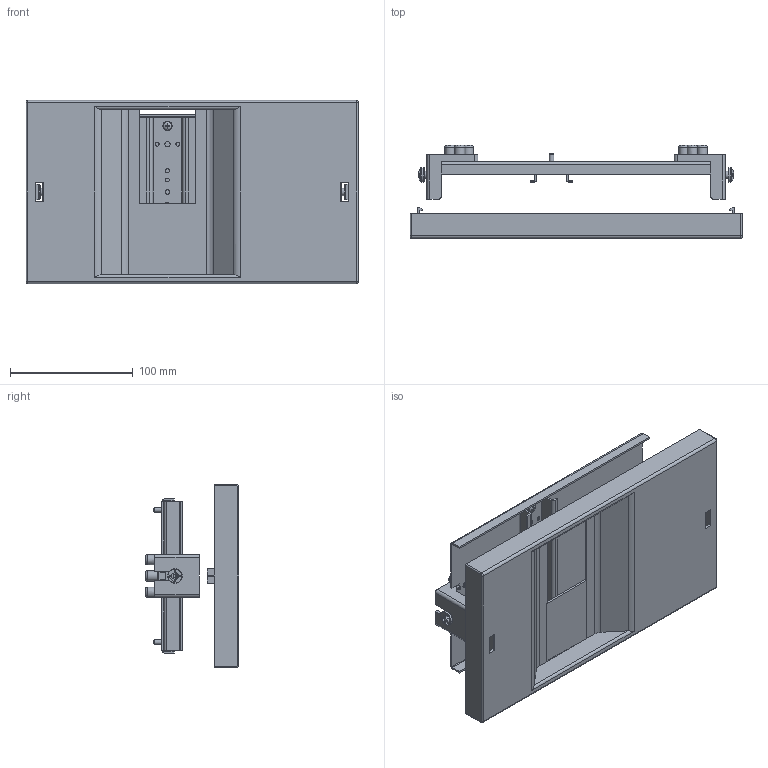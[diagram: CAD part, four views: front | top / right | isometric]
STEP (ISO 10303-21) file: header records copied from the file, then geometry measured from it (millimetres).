
FILE_DESCRIPTION(/* description */ (''),/* implementation_level */ '2;1');
FILE_NAME(/* name */ '4005081.stp',/* time_stamp */ '2019-03-01T17:15:51+01:00',/* author */ (''),/* organization */ (''),/* preprocessor_version */ 'ST-DEVELOPER v16.7',/* originating_system */ 'SIEMENS PLM Software NX 12.0',/* authorisation */ '');
FILE_SCHEMA (('AUTOMOTIVE_DESIGN { 1 0 10303 214 3 1 1 1 }'));
Length unit declared in the file: millimetre
Products named in the file (1): bsom23CC53FBq3zc
Bounding box: 271 x 76.05 x 149.5 mm (x, y, z)
Volume: 201086.6 mm3; surface area: 227134.2 mm2
Topology: 9 solids, 9 shells, 580 faces, 1559 edges, 1010 vertices
Faces by surface type: plane 330, cylinder 162, torus 29, bspline 23, cone 22, sphere 14
Full cylindrical faces by diameter (mm): 2.75 x2, 3 x10, 3.2 x12, 3.4 x8, 4 x2, 4.2 x8, 6 x2, 7.6 x2, 8.4 x8, 12 x2
Entity records: 19738 total; most frequent: CARTESIAN_POINT 5590, DIRECTION 2892, ORIENTED_EDGE 2812, EDGE_CURVE 1406, AXIS2_PLACEMENT_3D 988, VERTEX_POINT 962, LINE 916, VECTOR 916
